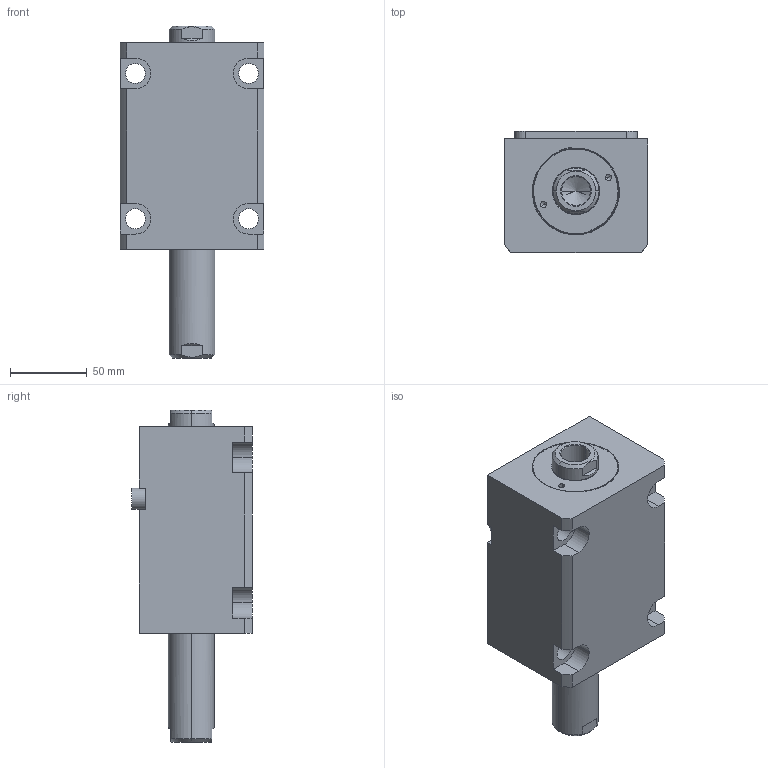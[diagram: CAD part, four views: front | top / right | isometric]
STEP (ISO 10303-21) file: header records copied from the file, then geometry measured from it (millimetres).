
FILE_DESCRIPTION (( 'STEP AP203' ), '1' );
FILE_NAME ('CHTB-LWM50-60N.STEP', '2018-05-22T07:44:16', ( '' ), ( '' ), 'SwSTEP 2.0', 'SolidWorks 2015', '' );
FILE_SCHEMA (( 'CONFIG_CONTROL_DESIGN' ));
Length unit declared in the file: millimetre
Products named in the file (4): CHTB-LWM50-60N; 掛极LWM50-60N; 活塞杆LWM50-60N; CHTM-SDMA50QG
Assembly tree (3 placements, depth 2):
  CHTB-LWM50-60N
    掛极LWM50-60N
    CHTM-SDMA50QG
    活塞杆LWM50-60N
Bounding box: 94 x 79 x 217 mm (x, y, z)
Volume: 849771.4 mm3; surface area: 134434.7 mm2
Topology: 3 solids, 3 shells, 213 faces, 571 edges, 374 vertices
Faces by surface type: cylinder 104, plane 57, cone 22, torus 16, bspline 14
Entity records: 11569 total; most frequent: CARTESIAN_POINT 6050, ORIENTED_EDGE 1126, DIRECTION 1011, EDGE_CURVE 563, AXIS2_PLACEMENT_3D 396, VERTEX_POINT 374, EDGE_LOOP 247, LINE 219
